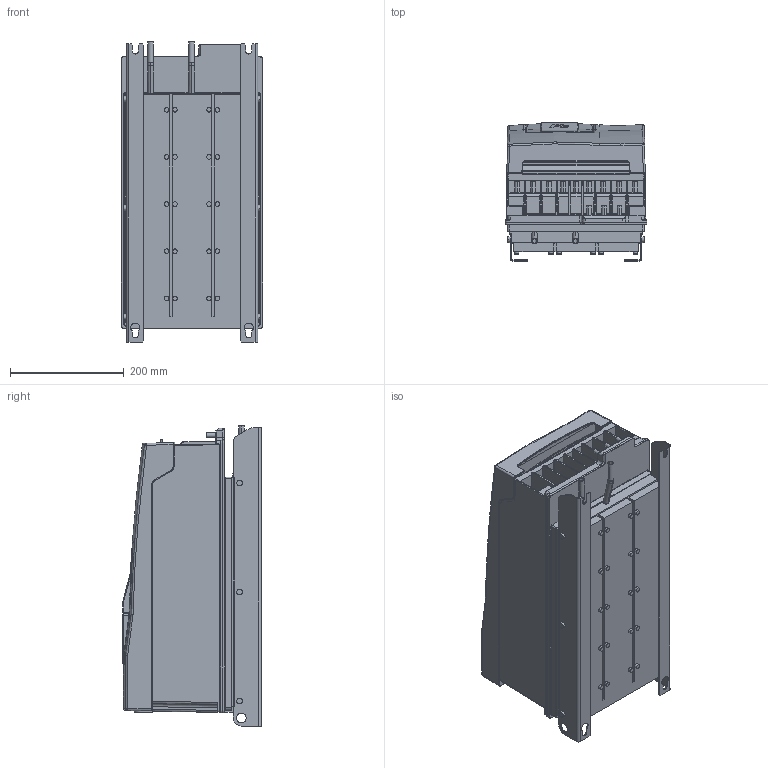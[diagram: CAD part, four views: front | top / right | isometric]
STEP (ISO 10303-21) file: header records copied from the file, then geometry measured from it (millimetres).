
FILE_DESCRIPTION (( 'STEP AP214' ), '1' );
FILE_NAME ('10070595_000.STEP', '2022-02-09T07:36:44', ( '' ), ( '' ), 'SwSTEP 2.0', 'SolidWorks 2019', '' );
FILE_SCHEMA (( 'AUTOMOTIVE_DESIGN' ));
Length unit declared in the file: millimetre
Products named in the file (11): Kundenmodell^10049926_000; 10049926_000_Leistungsteil F6-6  TW1 (Kundenmodell); 10059764_000_Blindabdeckung (Kundenmodell); Kundenmodell^10051076_000_Kundenmodell mit Geberbuchsen; 10070595_000; 10061793_000_Deckelbaugruppe F6-6 (Kundenmodell); Kundenmodell^10059764_000; 10027052_000_Geh„usebaugruppe F6-6 (Kundenmodell); Kundenmodell^10027052_000; 10051076_000_Kundenmodell; Kundenmodell^10061793_000
Assembly tree (10 placements, depth 4):
  10070595_000
    10049926_000_Leistungsteil F6-6  TW1 (Kundenmodell)
      Kundenmodell^10049926_000
    10027052_000_Geh„usebaugruppe F6-6 (Kundenmodell)
      10061793_000_Deckelbaugruppe F6-6 (Kundenmodell)
        Kundenmodell^10061793_000
      Kundenmodell^10027052_000
    10051076_000_Kundenmodell
      10059764_000_Blindabdeckung (Kundenmodell)
        Kundenmodell^10059764_000
      Kundenmodell^10051076_000_Kundenmodell mit Geberbuchsen
Bounding box: 249 x 243.9 x 528.5 mm (x, y, z)
Volume: 22311526.2 mm3; surface area: 1384422.6 mm2
Topology: 12 solids, 20 shells, 2918 faces, 7284 edges, 4357 vertices
Faces by surface type: cylinder 1062, plane 997, bspline 564, torus 117, sphere 108, cone 70
Entity records: 98844 total; most frequent: CARTESIAN_POINT 34160, ORIENTED_EDGE 14266, DIRECTION 12531, EDGE_CURVE 7133, AXIS2_PLACEMENT_3D 4501, VERTEX_POINT 4355, VECTOR 3529, LINE 3529
